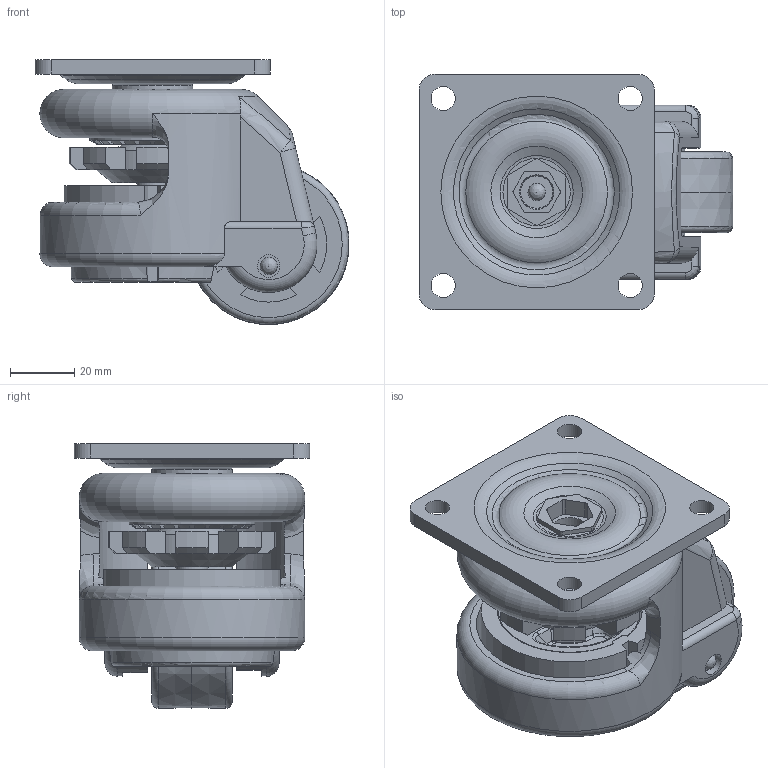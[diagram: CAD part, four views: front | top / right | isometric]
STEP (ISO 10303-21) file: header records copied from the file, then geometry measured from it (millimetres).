
FILE_DESCRIPTION(/* description */ (''),/* implementation_level */ '2;1');
FILE_NAME(/* name */ 'D:/SGDN-60-F v1.step',/* time_stamp */ '2020-07-20T14:21:51+09:00',/* author */ (''),/* organization */ (''),/* preprocessor_version */ 'ST-DEVELOPER v18.1',/* originating_system */ 'Autodesk Translation Framework v9.3.0.1241',/* authorisation */ '');
FILE_SCHEMA (('AUTOMOTIVE_DESIGN { 1 0 10303 214 3 1 1 }'));
Length unit declared in the file: millimetre
Products named in the file (1): SGDN-60-F
Bounding box: 97.4 x 73 x 82.15 mm (x, y, z)
Volume: 229540.4 mm3; surface area: 70850.6 mm2
Topology: 8 solids, 8 shells, 586 faces, 1519 edges, 971 vertices
Faces by surface type: plane 301, cylinder 157, cone 57, bspline 36, torus 29, sphere 6
Full cylindrical faces by diameter (mm): 2 x1, 3 x3, 7 x2, 7.5 x4, 8 x1, 8.4 x1, 10 x4, 10.7 x1, 18.9 x1, 19.4 x1, 20 x2, 25 x2, 27 x1, 39 x1, 39.4 x1
Entity records: 21772 total; most frequent: CARTESIAN_POINT 7516, ORIENTED_EDGE 3024, DIRECTION 3006, EDGE_CURVE 1512, AXIS2_PLACEMENT_3D 1151, VERTEX_POINT 971, LINE 704, VECTOR 704
